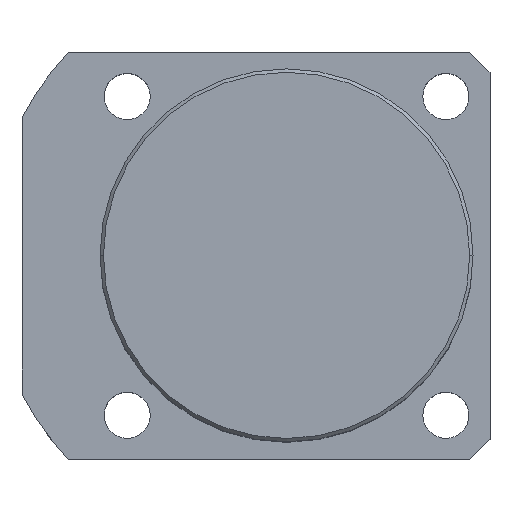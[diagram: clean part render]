
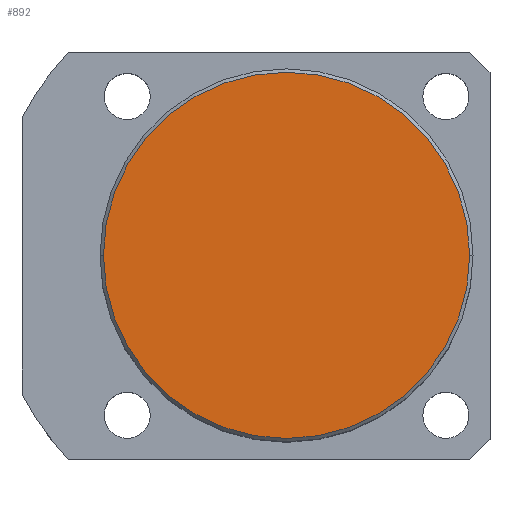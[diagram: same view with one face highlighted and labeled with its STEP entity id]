
A CAD part, top view. The second image highlights one B-rep face of the part: STEP entity #892.
In plain terms, the highlighted planar face has unit normal (0, 0, 1).
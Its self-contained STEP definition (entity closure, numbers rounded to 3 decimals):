
#154 = EDGE_CURVE ( 'NONE', #1050, #997, #956, .T. ) ;
#172 = AXIS2_PLACEMENT_3D ( 'NONE', #2162, #1314, #2167 ) ;
#188 = DIRECTION ( 'NONE',  ( 0., 0., 1. ) ) ;
#579 = AXIS2_PLACEMENT_3D ( 'NONE', #1193, #188, #831 ) ;
#589 = FACE_OUTER_BOUND ( 'NONE', #1110, .T. ) ;
#597 = CIRCLE ( 'NONE', #579, 27. ) ;
#831 = DIRECTION ( 'NONE',  ( 1., 0., 0. ) ) ;
#892 = ADVANCED_FACE ( 'NONE', ( #589 ), #1311, .T. ) ;
#945 = ORIENTED_EDGE ( 'NONE', *, *, #1921, .T. ) ;
#947 = DIRECTION ( 'NONE',  ( 1., 0., 0. ) ) ;
#956 = CIRCLE ( 'NONE', #2148, 27. ) ;
#997 = VERTEX_POINT ( 'NONE', #1835 ) ;
#1050 = VERTEX_POINT ( 'NONE', #1361 ) ;
#1110 = EDGE_LOOP ( 'NONE', ( #1525, #945 ) ) ;
#1116 = CARTESIAN_POINT ( 'NONE',  ( 0., 0., 55. ) ) ;
#1193 = CARTESIAN_POINT ( 'NONE',  ( 0., 0., 55. ) ) ;
#1311 = PLANE ( 'NONE',  #172 ) ;
#1314 = DIRECTION ( 'NONE',  ( 0., 0., 1. ) ) ;
#1361 = CARTESIAN_POINT ( 'NONE',  ( -27., 0., 55. ) ) ;
#1525 = ORIENTED_EDGE ( 'NONE', *, *, #154, .T. ) ;
#1794 = DIRECTION ( 'NONE',  ( 0., 0., 1. ) ) ;
#1835 = CARTESIAN_POINT ( 'NONE',  ( 27., 0., 55. ) ) ;
#1921 = EDGE_CURVE ( 'NONE', #997, #1050, #597, .T. ) ;
#2148 = AXIS2_PLACEMENT_3D ( 'NONE', #1116, #1794, #947 ) ;
#2162 = CARTESIAN_POINT ( 'NONE',  ( 0., 0., 55. ) ) ;
#2167 = DIRECTION ( 'NONE',  ( 1., 0., 0. ) ) ;
